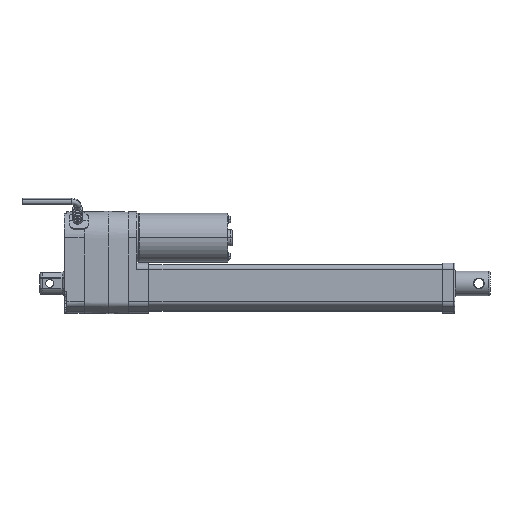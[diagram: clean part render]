
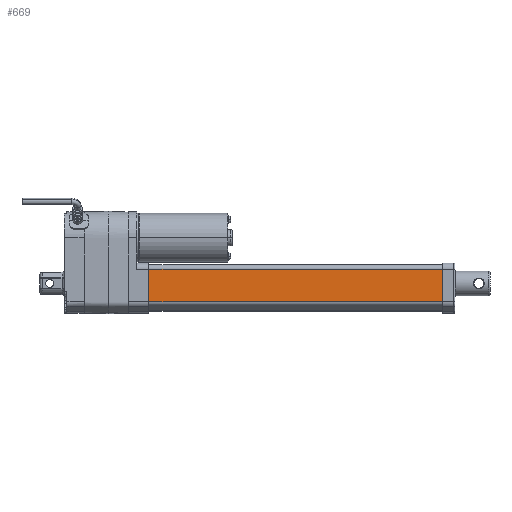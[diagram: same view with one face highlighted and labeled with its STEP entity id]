
A CAD part, top view. The second image highlights one B-rep face of the part: STEP entity #669.
In plain terms, the highlighted planar face has unit normal (0, 0, 1).
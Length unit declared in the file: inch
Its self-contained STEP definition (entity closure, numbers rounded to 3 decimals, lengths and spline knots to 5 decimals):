
#669=ADVANCED_FACE('',(#1497),#1498,.T.);
#1497=FACE_OUTER_BOUND('',#2713,.T.);
#1498=PLANE('',#2714);
#2713=EDGE_LOOP('',(#4802,#4803,#4804,#4805));
#2714=AXIS2_PLACEMENT_3D('',#4806,#4807,#4808);
#4802=ORIENTED_EDGE('',*,*,#7116,.F.);
#4803=ORIENTED_EDGE('',*,*,#6367,.F.);
#4804=ORIENTED_EDGE('',*,*,#7117,.T.);
#4805=ORIENTED_EDGE('',*,*,#7118,.T.);
#4806=CARTESIAN_POINT('',(12.06693,-0.5801,0.76772));
#4807=DIRECTION('',(0.0,-0.0,1.0));
#4808=DIRECTION('',(0.0,1.0,0.0));
#6367=EDGE_CURVE('',#7528,#7524,#7530,.T.);
#7116=EDGE_CURVE('',#7524,#8742,#8743,.T.);
#7117=EDGE_CURVE('',#7528,#8744,#8745,.T.);
#7118=EDGE_CURVE('',#8744,#8742,#8746,.T.);
#7524=VERTEX_POINT('',#9234);
#7528=VERTEX_POINT('',#9239);
#7530=LINE('',#9241,#9242);
#8742=VERTEX_POINT('',#11079);
#8743=LINE('',#11080,#11081);
#8744=VERTEX_POINT('',#11082);
#8745=LINE('',#11083,#11084);
#8746=LINE('',#11085,#11086);
#9234=CARTESIAN_POINT('',(2.69685,-0.5801,0.76772));
#9239=CARTESIAN_POINT('',(12.06693,-0.5801,0.76772));
#9241=CARTESIAN_POINT('',(12.06693,-0.5801,0.76772));
#9242=VECTOR('',#11851,39.37008);
#11079=CARTESIAN_POINT('',(2.69685,0.45276,0.76772));
#11080=CARTESIAN_POINT('',(2.69685,0.45276,0.76772));
#11081=VECTOR('',#12898,39.37008);
#11082=CARTESIAN_POINT('',(12.06693,0.45276,0.76772));
#11083=CARTESIAN_POINT('',(12.06693,-0.5801,0.76772));
#11084=VECTOR('',#12899,39.37008);
#11085=CARTESIAN_POINT('',(12.06693,0.45276,0.76772));
#11086=VECTOR('',#12900,39.37008);
#11851=DIRECTION('',(-1.0,0.0,0.0));
#12898=DIRECTION('',(0.0,1.0,0.0));
#12899=DIRECTION('',(0.0,1.0,0.0));
#12900=DIRECTION('',(-1.0,0.0,0.0));
